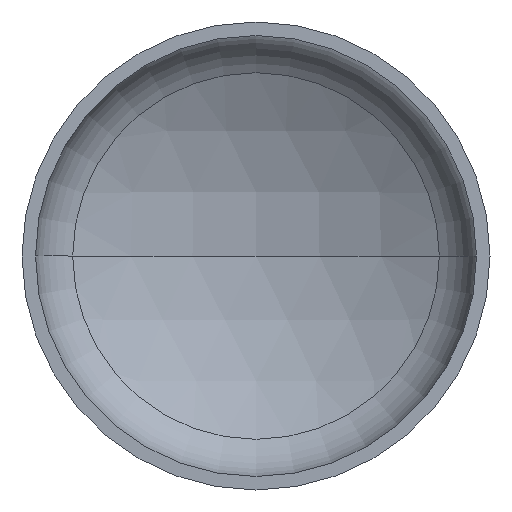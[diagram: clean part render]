
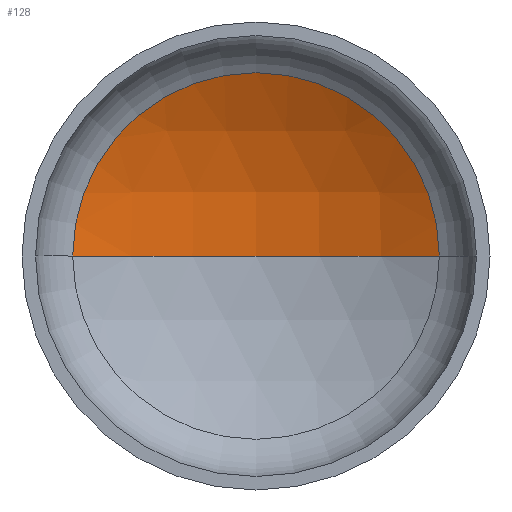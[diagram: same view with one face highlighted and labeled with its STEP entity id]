
A CAD part, front view. The second image highlights one B-rep face of the part: STEP entity #128.
In plain terms, the highlighted spherical face has radius 720 mm.
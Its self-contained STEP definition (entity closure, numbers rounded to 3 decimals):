
#5 = AXIS2_PLACEMENT_3D ( 'NONE', #176, #375, #202 ) ;
#7 = AXIS2_PLACEMENT_3D ( 'NONE', #84, #288, #118 ) ;
#13 = VERTEX_POINT ( 'NONE', #186 ) ;
#26 = AXIS2_PLACEMENT_3D ( 'NONE', #68, #363, #66 ) ;
#30 = AXIS2_PLACEMENT_3D ( 'NONE', #302, #304, #306 ) ;
#66 = DIRECTION ( 'NONE',  ( -1., 0., 0. ) ) ;
#68 = CARTESIAN_POINT ( 'NONE',  ( 0., -420.711, 0. ) ) ;
#75 = CIRCLE ( 'NONE', #5, 720. ) ;
#84 = CARTESIAN_POINT ( 'NONE',  ( 0., -420.711, 0. ) ) ;
#90 = EDGE_CURVE ( 'NONE', #116, #217, #269, .T. ) ;
#108 = EDGE_LOOP ( 'NONE', ( #273, #335, #225 ) ) ;
#116 = VERTEX_POINT ( 'NONE', #361 ) ;
#118 = DIRECTION ( 'NONE',  ( -1., 0., 0. ) ) ;
#128 = ADVANCED_FACE ( 'NONE', ( #409 ), #338, .F. ) ;
#176 = CARTESIAN_POINT ( 'NONE',  ( 0., -420.711, 0. ) ) ;
#186 = CARTESIAN_POINT ( 'NONE',  ( 0., 299.289, 0. ) ) ;
#202 = DIRECTION ( 'NONE',  ( 1., 0., 0. ) ) ;
#217 = VERTEX_POINT ( 'NONE', #220 ) ;
#220 = CARTESIAN_POINT ( 'NONE',  ( -352.552, 207.068, 0. ) ) ;
#225 = ORIENTED_EDGE ( 'NONE', *, *, #90, .T. ) ;
#269 = CIRCLE ( 'NONE', #30, 352.552 ) ;
#273 = ORIENTED_EDGE ( 'NONE', *, *, #348, .F. ) ;
#288 = DIRECTION ( 'NONE',  ( 0., 0., -1. ) ) ;
#302 = CARTESIAN_POINT ( 'NONE',  ( 0., 207.068, 0. ) ) ;
#304 = DIRECTION ( 'NONE',  ( 0., -1., 0. ) ) ;
#306 = DIRECTION ( 'NONE',  ( 1., 0., 0. ) ) ;
#335 = ORIENTED_EDGE ( 'NONE', *, *, #341, .T. ) ;
#338 = SPHERICAL_SURFACE ( 'NONE', #26, 720. ) ;
#341 = EDGE_CURVE ( 'NONE', #13, #116, #369, .T. ) ;
#348 = EDGE_CURVE ( 'NONE', #13, #217, #75, .T. ) ;
#361 = CARTESIAN_POINT ( 'NONE',  ( 352.552, 207.068, 0. ) ) ;
#363 = DIRECTION ( 'NONE',  ( 0., 0., -1. ) ) ;
#369 = CIRCLE ( 'NONE', #7, 720. ) ;
#375 = DIRECTION ( 'NONE',  ( 0., 0., 1. ) ) ;
#409 = FACE_OUTER_BOUND ( 'NONE', #108, .T. ) ;
